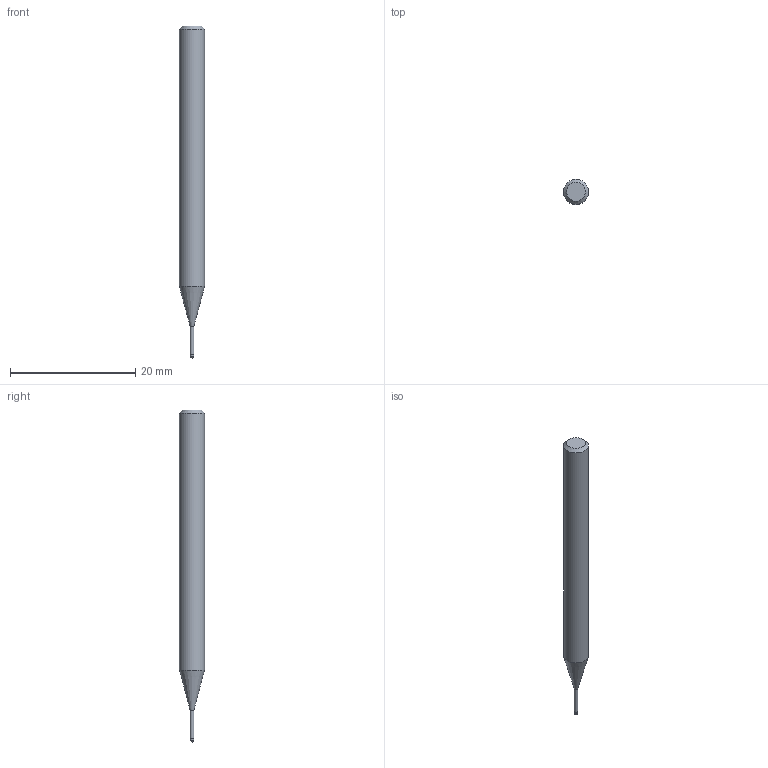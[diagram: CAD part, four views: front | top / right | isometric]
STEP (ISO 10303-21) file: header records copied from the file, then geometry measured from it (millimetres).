
FILE_DESCRIPTION((''),'2;1');
FILE_NAME('C:\Users\nsx150\AppData\Local\Temp\Mastercam 2021\LJSIDMOTM8\TEMP.step','2021-08-03T14:23:58',(''),(''),'STEP Write','Mastercam 2021 ... CNC Software, Inc.','');
FILE_SCHEMA(('AUTOMOTIVE_DESIGN'));
Length unit declared in the file: millimetre
Products named in the file (1): None
Bounding box: 4 x 4 x 53 mm (x, y, z)
Volume: 553.5 mm3; surface area: 588.1 mm2
Topology: 2 solids, 2 shells, 9 faces, 14 edges, 8 vertices
Faces by surface type: plane 3, cylinder 3, cone 2, sphere 1
Full cylindrical faces by diameter (mm): 0.56 x1, 0.6 x1, 4 x1
Entity records: 211 total; most frequent: DIRECTION 36, CARTESIAN_POINT 25, AXIS2_PLACEMENT_3D 18, ORIENTED_EDGE 14, EDGE_LOOP 14, STYLED_ITEM 12, ADVANCED_FACE 9, FACE_BOUND 8
